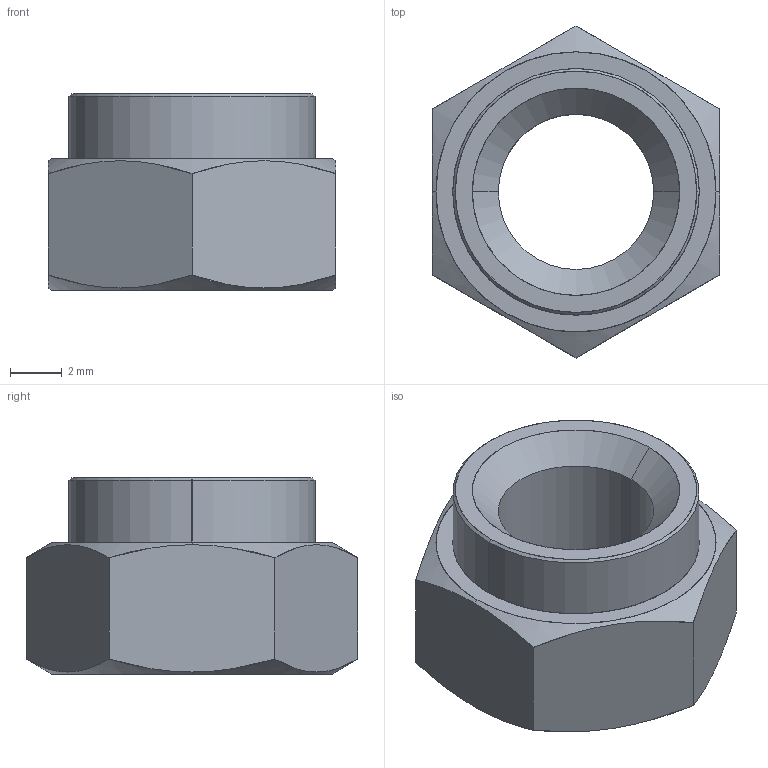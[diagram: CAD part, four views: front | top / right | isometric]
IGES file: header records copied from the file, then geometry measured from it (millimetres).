
Start section: SolidWorks IGES file using analytic representation for surfaces
Global section: file name: C:\Users\liam_\OneDrive\Desktop\Work\Mat Davis Pending 20181125\automotion\P SERIES\P0827.ZP_v2\P0827.ZP_v2_20181231_IGES\P0827.060-14G-ZP.igs; native system: SolidWorks 2017; preprocessor: SolidWorks 2017; author: liam_; date: 181231.110746; units: millimetre
Bounding box: 11.1 x 12.82 x 7.58 mm (x, y, z)
Surface area: 533.8 mm2 (no closed solid volume)
Topology: 0 solids, 0 shells, 23 faces, 400 edges, 400 vertices
Faces by surface type: revolution 14, bspline 9
